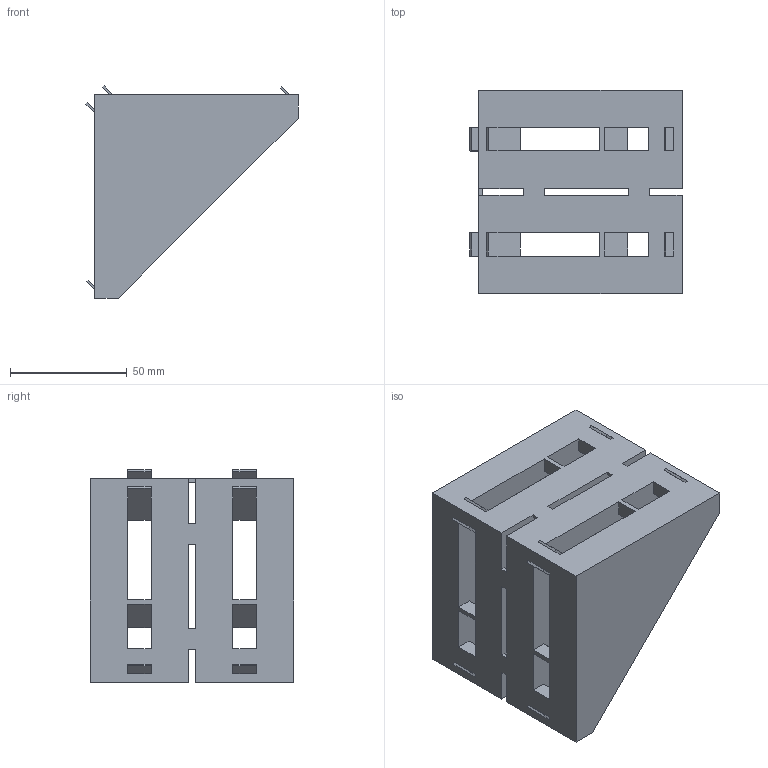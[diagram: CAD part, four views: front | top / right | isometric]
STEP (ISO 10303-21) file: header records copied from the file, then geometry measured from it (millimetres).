
FILE_DESCRIPTION((''),'2;1');
FILE_NAME('SQ087087','2002-12-27T',('Lipro doo'),('Lipro d.o.o.'),'PRO/ENGINEER BY PARAMETRIC TECHNOLOGY CORPORATION, 2001150','PRO/ENGINEER BY PARAMETRIC TECHNOLOGY CORPORATION, 2001150','');
FILE_SCHEMA(('CONFIG_CONTROL_DESIGN'));
Length unit declared in the file: millimetre
Products named in the file (1): SQ087087
Bounding box: 90.83 x 87 x 90.83 mm (x, y, z)
Volume: 147498.8 mm3; surface area: 49359.6 mm2
Topology: 1 solids, 1 shells, 114 faces, 318 edges, 206 vertices
Faces by surface type: plane 106, cylinder 6, sphere 2
Entity records: 3676 total; most frequent: CARTESIAN_POINT 674, ORIENTED_EDGE 636, DIRECTION 550, EDGE_CURVE 318, VECTOR 306, LINE 306, VERTEX_POINT 206, EDGE_LOOP 136
